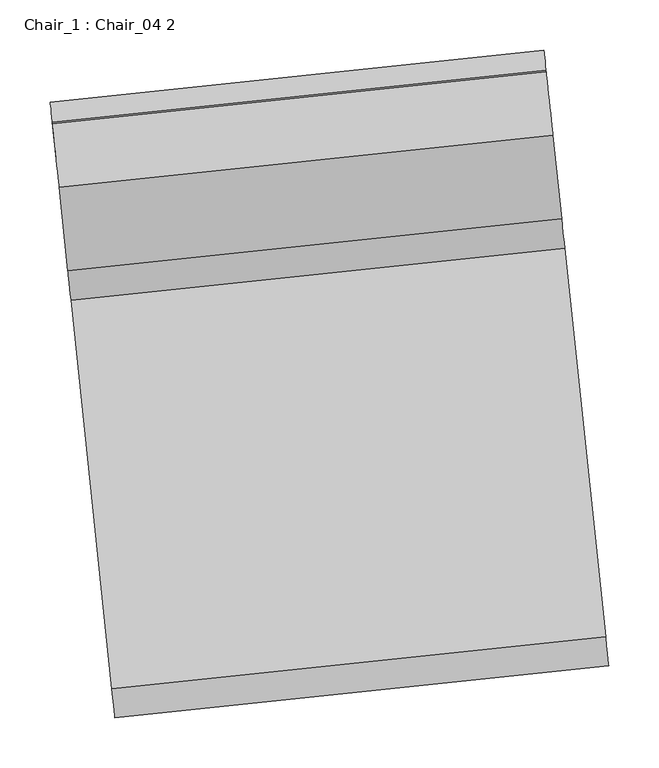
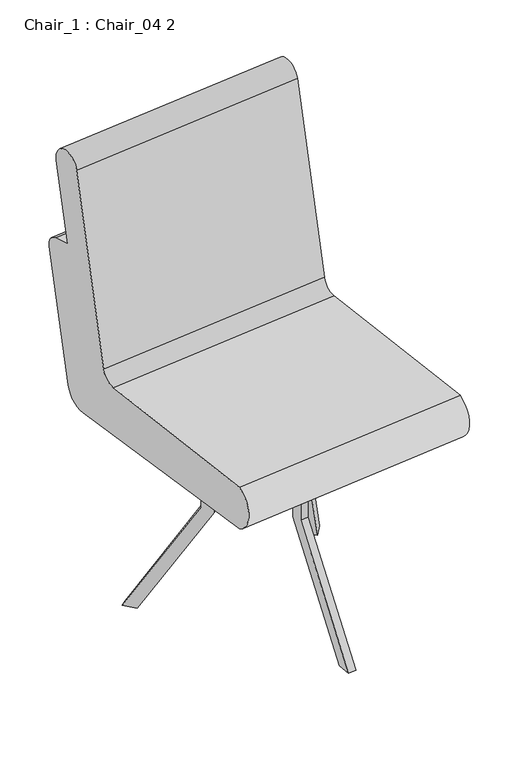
"""IFC4 building model written with IfcOpenShell, lengths in millimetres: furniture geometry, Chair_1 : Chair_04 2."""

from ifc_helpers import new_model, si_unit, point, frame, frame_2d, origin, place, context, project, spatial, polyline, circle_curve, trimmed, segment, composite_curve, outline, extrude, source, transform, mapped, element, save


def chair_1_chair_04_2_7db89e4d(model_context):
    return source(origin(), model_context, "Body", "SweptSolid", [
        extrude(outline(polyline([(6.0086061, 0.0), (35.1744411, 0.0), (181.9195035, -244.2247965), (181.9195035, -406.3926425), (156.9195035, -407.2704706), (156.9195035, -251.1579101), (6.0086061, 0.0)])), frame((-230.6059596, 108.3707798, 0.0), z_axis=(0.7547095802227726, 0.6560590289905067, 0.0), x_axis=(0.6560590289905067, -0.7547095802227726, 0.0)), (0.0, 0.0, 1.0), 15.7061968),
        extrude(outline(polyline([(-6.0086061, 0.0), (-156.9195035, -251.1579101), (-156.9195035, -407.2704706), (-181.9195034, -406.3926425), (-181.9195034, -244.2247965), (-35.1744411, 0.0), (-6.0086061, 0.0)])), frame((211.5153973, 146.7104074, 0.0), z_axis=(-0.7986355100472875, 0.6018150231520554, 0.0), x_axis=(0.6018150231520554, 0.7986355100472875, 0.0)), (0.0, 0.0, 1.0), 15.7061968),
        extrude(outline(polyline([(-6.0086062, 0.0), (-156.9195035, -251.1579101), (-156.9195035, -407.2704706), (-181.9195035, -406.3926425), (-181.9195035, -244.2247965), (-35.1744412, 0.0), (-6.0086062, 0.0)])), frame((21.9230112, -292.3389194, 0.0), z_axis=(0.9961946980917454, 0.08715574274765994, 0.0), x_axis=(0.08715574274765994, -0.9961946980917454, 0.0)), (0.0, 0.0, 1.0), 15.7061968),
        extrude(outline(composite_curve([segment(polyline([(6.2373507, 59.344428), (-385.6106313, 142.6342878)]), True, "CONTINUOUS"), segment(trimmed(circle_curve(frame_2d((-378.932763, 174.0511877)), 32.1187722), [point((-385.6106313, 142.6342878))], [point((-372.2548948, 205.4680877))], False, "CARTESIAN"), True, "CONTINUOUS"), segment(polyline([(-372.2548948, 205.4680877), (-208.0470292, 170.5646284), (-200.1210174, 207.8535821)]), True, "CONTINUOUS"), segment(trimmed(circle_curve(frame_2d((-175.6673274, 202.6557898)), 25.0), [point((-200.1210174, 207.8535821))], [point((-170.4695351, 227.1094798))], False, "CARTESIAN"), True, "CONTINUOUS"), segment(polyline([(-170.4695351, 227.1094798), (102.7874078, 169.0269236)]), True, "CONTINUOUS"), segment(trimmed(circle_curve(frame_2d((93.4313817, 125.0102815)), 45.0), [point((102.7874078, 169.0269236))], [point((138.403969, 123.4398042))], False, "CARTESIAN"), True, "CONTINUOUS"), segment(polyline([(138.403969, 123.4398042), (121.5714346, -358.5809134)]), True, "CONTINUOUS"), segment(trimmed(circle_curve(frame_2d((75.7857173, -337.0776132)), 50.5838297), [point((121.5714346, -358.5809134))], [point((30.0, -358.5809134))], False, "CARTESIAN"), True, "CONTINUOUS"), segment(polyline([(30.0, -358.5809134), (30.0, 30.0)]), True, "CONTINUOUS"), segment(trimmed(circle_curve(frame_2d((0.0, 30.0)), 30.0), [point((30.0, 30.0))], [point((6.2373507, 59.344428))], True, "CARTESIAN"), True, "CONTINUOUS")], self_intersect=False)), frame((-253.6685295, 53.598295, 533.6849086), z_axis=(0.9945218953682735, 0.10452846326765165, 0.0), x_axis=(0.0, 0.0, -1.0)), (0.0, 0.0, 1.0), 493.3527187),
    ])


if __name__ == "__main__":
    model = new_model("IFC4")
    model_context = context("Model", 3, world=origin())
    ifc_project = project(units=[si_unit("LENGTHUNIT", "METRE", prefix="MILLI")], contexts=[model_context])
    site = spatial("IfcSite", under=ifc_project)
    building = spatial("IfcBuilding", under=site)
    placement = place(None, origin())
    chair_1_chair_04_2_shape = chair_1_chair_04_2_7db89e4d(model_context)
    element("IfcFurniture", 1, ObjectType="Chair_1 : Chair_04 2", at=placement, inside=building, context=model_context, shape_type="MappedRepresentation", body=[
        mapped(chair_1_chair_04_2_shape, transform((0.0, 0.0, 0.0), x_axis=(1.0, 0.0, 0.0), y_axis=(0.0, 1.0, 0.0), z_axis=(0.0, 0.0, 1.0))),
    ])
    save(model, "model.ifc")
